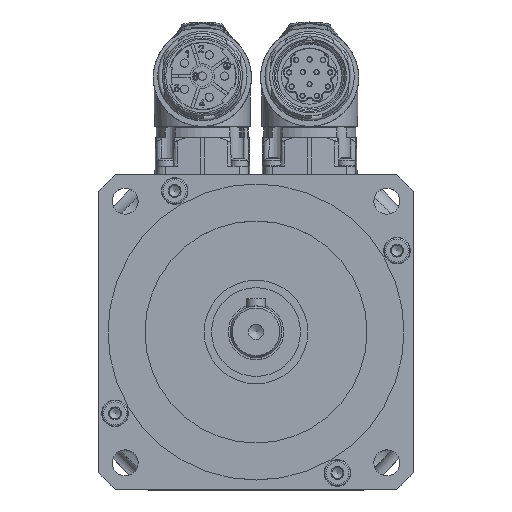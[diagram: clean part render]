
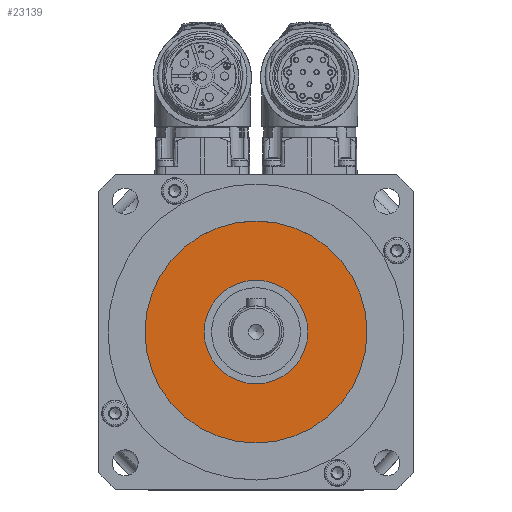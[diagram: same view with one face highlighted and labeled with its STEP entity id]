
A CAD part, top view. The second image highlights one B-rep face of the part: STEP entity #23139.
In plain terms, the highlighted planar face has unit normal (0, 0, 1).
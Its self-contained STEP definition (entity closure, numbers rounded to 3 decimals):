
#3325=FACE_BOUND('',#5294,.T.);
#3326=FACE_BOUND('',#5295,.T.);
#5294=EDGE_LOOP('',(#16139));
#5295=EDGE_LOOP('',(#16140));
#9375=CIRCLE('',#24609,14.);
#9392=CIRCLE('',#24644,30.);
#10478=VERTEX_POINT('',#33221);
#10495=VERTEX_POINT('',#33273);
#12831=EDGE_CURVE('',#10478,#10478,#9375,.T.);
#12848=EDGE_CURVE('',#10495,#10495,#9392,.T.);
#16139=ORIENTED_EDGE('',*,*,#12831,.T.);
#16140=ORIENTED_EDGE('',*,*,#12848,.F.);
#22599=PLANE('',#24643);
#23139=ADVANCED_FACE('',(#3325,#3326),#22599,.F.);
#24609=AXIS2_PLACEMENT_3D('',#33222,#27145,#27146);
#24643=AXIS2_PLACEMENT_3D('',#33272,#27213,#27214);
#24644=AXIS2_PLACEMENT_3D('',#33274,#27215,#27216);
#27145=DIRECTION('center_axis',(0.,0.,-1.));
#27146=DIRECTION('ref_axis',(1.,0.,0.));
#27213=DIRECTION('center_axis',(0.,0.,-1.));
#27214=DIRECTION('ref_axis',(-1.,0.,0.));
#27215=DIRECTION('center_axis',(0.,0.,-1.));
#27216=DIRECTION('ref_axis',(-1.,0.,0.));
#33221=CARTESIAN_POINT('',(14.,0.,-0.5));
#33222=CARTESIAN_POINT('Origin',(0.,0.,-0.5));
#33272=CARTESIAN_POINT('Origin',(0.,0.,
-0.5));
#33273=CARTESIAN_POINT('',(30.,0.,-0.5));
#33274=CARTESIAN_POINT('Origin',(0.,0.,-0.5));
